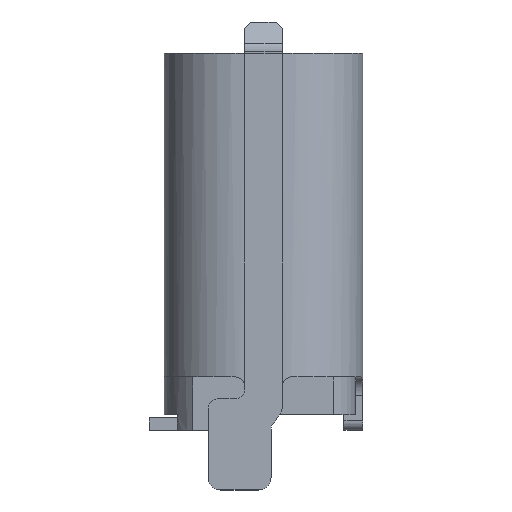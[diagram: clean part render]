
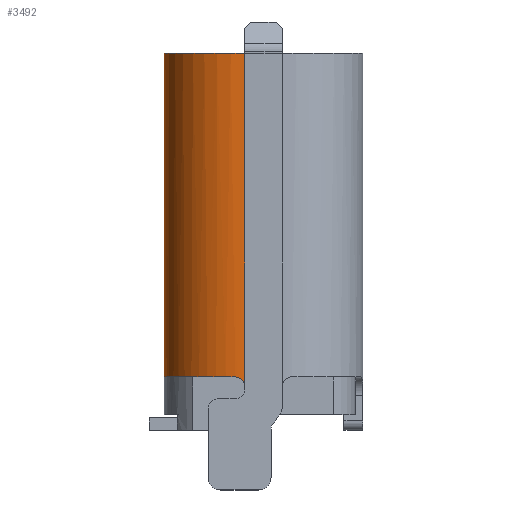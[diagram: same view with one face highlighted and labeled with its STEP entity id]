
A CAD part, left-side view. The second image highlights one B-rep face of the part: STEP entity #3492.
In plain terms, the highlighted cylindrical face has radius 1.28 mm (diameter 2.56 mm), a partial arc.
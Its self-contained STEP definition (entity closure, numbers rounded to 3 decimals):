
#95 = VERTEX_POINT ( 'NONE', #5925 ) ;
#128 = CARTESIAN_POINT ( 'NONE',  ( -4.461, 5.65, -1.13 ) ) ;
#228 = CARTESIAN_POINT ( 'NONE',  ( -3.19, 0.5, -1.28 ) ) ;
#342 = B_SPLINE_CURVE_WITH_KNOTS ( 'NONE', 3,
 ( #5092, #5289, #7413, #6736, #7211, #13849, #11535, #7933, #14851, #3348, #15010, #1024, #19644, #6665, #6652, #7268 ),
 .UNSPECIFIED., .F., .F.,
 ( 4, 3, 3, 3, 3, 4 ),
 ( 0., 0., 0., 0., 0., 0. ),
 .UNSPECIFIED. ) ;
#1024 = CARTESIAN_POINT ( 'NONE',  ( -4.47, 5.75, -1.272 ) ) ;
#1448 = DIRECTION ( 'NONE',  ( 0., -1., 0. ) ) ;
#2582 = DIRECTION ( 'NONE',  ( -1., 0., 0. ) ) ;
#2906 = DIRECTION ( 'NONE',  ( 0., -1., 0. ) ) ;
#2923 = CARTESIAN_POINT ( 'NONE',  ( -3.19, 8.755, -1.28 ) ) ;
#3092 = ORIENTED_EDGE ( 'NONE', *, *, #16529, .F. ) ;
#3348 = CARTESIAN_POINT ( 'NONE',  ( -4.47, 5.72, -1.257 ) ) ;
#3492 = ADVANCED_FACE ( 'NONE', ( #6895 ), #7073, .T. ) ;
#3918 = CARTESIAN_POINT ( 'NONE',  ( -4.47, 6.85, -1.28 ) ) ;
#4156 = CARTESIAN_POINT ( 'NONE',  ( -4.47, 0.5, -1.28 ) ) ;
#5082 = CARTESIAN_POINT ( 'NONE',  ( -3.19, 6.85, 0. ) ) ;
#5092 = CARTESIAN_POINT ( 'NONE',  ( -4.461, 5.65, -1.13 ) ) ;
#5119 = DIRECTION ( 'NONE',  ( 0., -1., 0. ) ) ;
#5147 = CIRCLE ( 'NONE', #6523, 1.28 ) ;
#5245 = LINE ( 'NONE', #5082, #5322 ) ;
#5289 = CARTESIAN_POINT ( 'NONE',  ( -4.463, 5.65, -1.147 ) ) ;
#5322 = VECTOR ( 'NONE', #5119, 1000. ) ;
#5925 = CARTESIAN_POINT ( 'NONE',  ( -3.19, 0.5, 0. ) ) ;
#6346 = AXIS2_PLACEMENT_3D ( 'NONE', #6938, #11827, #13304 ) ;
#6523 = AXIS2_PLACEMENT_3D ( 'NONE', #228, #1448, #7358 ) ;
#6652 = CARTESIAN_POINT ( 'NONE',  ( -4.47, 5.789, -1.28 ) ) ;
#6665 = CARTESIAN_POINT ( 'NONE',  ( -4.47, 5.777, -1.279 ) ) ;
#6736 = CARTESIAN_POINT ( 'NONE',  ( -4.466, 5.658, -1.179 ) ) ;
#6895 = FACE_OUTER_BOUND ( 'NONE', #7166, .T. ) ;
#6938 = CARTESIAN_POINT ( 'NONE',  ( -3.19, 5.65, -1.28 ) ) ;
#7073 = CYLINDRICAL_SURFACE ( 'NONE', #11794, 1.28 ) ;
#7166 = EDGE_LOOP ( 'NONE', ( #12680, #7235, #3092, #17152, #18449 ) ) ;
#7211 = CARTESIAN_POINT ( 'NONE',  ( -4.467, 5.664, -1.195 ) ) ;
#7235 = ORIENTED_EDGE ( 'NONE', *, *, #16381, .F. ) ;
#7268 = CARTESIAN_POINT ( 'NONE',  ( -4.47, 5.8, -1.28 ) ) ;
#7358 = DIRECTION ( 'NONE',  ( 0., 0., -1. ) ) ;
#7413 = CARTESIAN_POINT ( 'NONE',  ( -4.465, 5.653, -1.164 ) ) ;
#7933 = CARTESIAN_POINT ( 'NONE',  ( -4.469, 5.693, -1.236 ) ) ;
#8670 = VECTOR ( 'NONE', #9518, 1000. ) ;
#9206 = CARTESIAN_POINT ( 'NONE',  ( -3.19, 5.65, 0. ) ) ;
#9300 = EDGE_CURVE ( 'NONE', #9933, #12746, #12536, .T. ) ;
#9518 = DIRECTION ( 'NONE',  ( 0., -1., 0. ) ) ;
#9933 = VERTEX_POINT ( 'NONE', #15838 ) ;
#11535 = CARTESIAN_POINT ( 'NONE',  ( -4.469, 5.683, -1.223 ) ) ;
#11794 = AXIS2_PLACEMENT_3D ( 'NONE', #2923, #2906, #2582 ) ;
#11827 = DIRECTION ( 'NONE',  ( 0., 1., 0. ) ) ;
#11974 = CIRCLE ( 'NONE', #6346, 1.28 ) ;
#12027 = VERTEX_POINT ( 'NONE', #9206 ) ;
#12536 = LINE ( 'NONE', #3918, #8670 ) ;
#12680 = ORIENTED_EDGE ( 'NONE', *, *, #16376, .F. ) ;
#12746 = VERTEX_POINT ( 'NONE', #4156 ) ;
#13304 = DIRECTION ( 'NONE',  ( -1., 0., 0. ) ) ;
#13849 = CARTESIAN_POINT ( 'NONE',  ( -4.468, 5.672, -1.21 ) ) ;
#14851 = CARTESIAN_POINT ( 'NONE',  ( -4.47, 5.706, -1.248 ) ) ;
#15010 = CARTESIAN_POINT ( 'NONE',  ( -4.47, 5.734, -1.266 ) ) ;
#15838 = CARTESIAN_POINT ( 'NONE',  ( -4.47, 5.8, -1.28 ) ) ;
#16376 = EDGE_CURVE ( 'NONE', #95, #12746, #5147, .T. ) ;
#16381 = EDGE_CURVE ( 'NONE', #12027, #95, #5245, .T. ) ;
#16529 = EDGE_CURVE ( 'NONE', #16862, #12027, #11974, .T. ) ;
#16594 = EDGE_CURVE ( 'NONE', #16862, #9933, #342, .T. ) ;
#16862 = VERTEX_POINT ( 'NONE', #128 ) ;
#17152 = ORIENTED_EDGE ( 'NONE', *, *, #16594, .T. ) ;
#18449 = ORIENTED_EDGE ( 'NONE', *, *, #9300, .T. ) ;
#19644 = CARTESIAN_POINT ( 'NONE',  ( -4.47, 5.766, -1.276 ) ) ;
